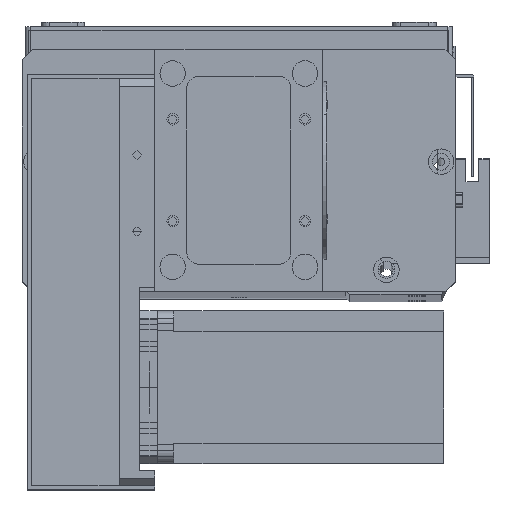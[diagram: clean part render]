
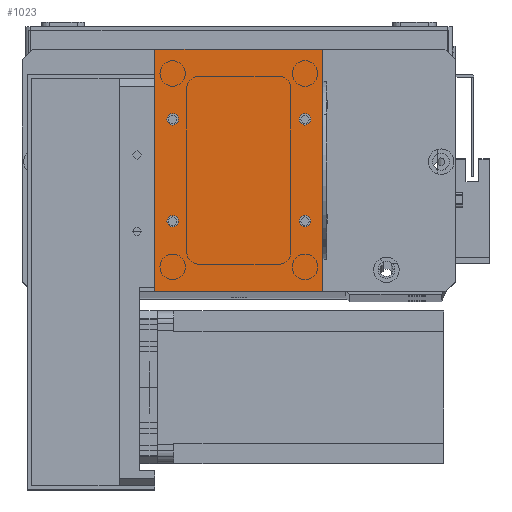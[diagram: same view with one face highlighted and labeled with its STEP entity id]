
A CAD part, top view. The second image highlights one B-rep face of the part: STEP entity #1023.
In plain terms, the highlighted planar face has unit normal (0, 0, 1).
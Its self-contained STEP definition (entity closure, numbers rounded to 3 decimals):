
#699 = ORIENTED_EDGE ( 'NONE', *, *, #7425, .T. ) ;
#843 = EDGE_CURVE ( 'NONE', #31565, #13674, #29270, .T. ) ;
#1023 = ADVANCED_FACE ( 'NONE', ( #31191, #17770, #24487, #11866, #4382 ), #15827, .F. ) ;
#1251 = ORIENTED_EDGE ( 'NONE', *, *, #5670, .T. ) ;
#2135 = VECTOR ( 'NONE', #23312, 1000. ) ;
#2462 = CIRCLE ( 'NONE', #5660, 2.25 ) ;
#2899 = ORIENTED_EDGE ( 'NONE', *, *, #5317, .F. ) ;
#3327 = CARTESIAN_POINT ( 'NONE',  ( 61.25, 27.5, 2. ) ) ;
#3408 = EDGE_CURVE ( 'NONE', #19579, #8391, #5851, .T. ) ;
#3503 = CIRCLE ( 'NONE', #13857, 2.25 ) ;
#3637 = CARTESIAN_POINT ( 'NONE',  ( 7., 67.5, 2. ) ) ;
#3653 = DIRECTION ( 'NONE',  ( 0., -1., 0. ) ) ;
#3662 = CARTESIAN_POINT ( 'NONE',  ( 66., 0., 2. ) ) ;
#3727 = LINE ( 'NONE', #5565, #2135 ) ;
#3875 = VECTOR ( 'NONE', #29901, 1000. ) ;
#4101 = CARTESIAN_POINT ( 'NONE',  ( 4.75, 27.5, 2. ) ) ;
#4382 = FACE_OUTER_BOUND ( 'NONE', #21999, .T. ) ;
#4405 = CARTESIAN_POINT ( 'NONE',  ( 7., 27.5, 2. ) ) ;
#4705 = VERTEX_POINT ( 'NONE', #26775 ) ;
#4759 = CARTESIAN_POINT ( 'NONE',  ( 0., 95., 2. ) ) ;
#5306 = CARTESIAN_POINT ( 'NONE',  ( 59., 67.5, 2. ) ) ;
#5317 = EDGE_CURVE ( 'NONE', #24619, #4705, #11648, .T. ) ;
#5565 = CARTESIAN_POINT ( 'NONE',  ( 66., 0., 2. ) ) ;
#5660 = AXIS2_PLACEMENT_3D ( 'NONE', #14148, #31775, #16696 ) ;
#5670 = EDGE_CURVE ( 'NONE', #8391, #19389, #3727, .T. ) ;
#5851 = LINE ( 'NONE', #27031, #31892 ) ;
#6179 = DIRECTION ( 'NONE',  ( 1., 0., 0. ) ) ;
#6914 = DIRECTION ( 'NONE',  ( 1., 0., 0. ) ) ;
#7059 = CARTESIAN_POINT ( 'NONE',  ( 59., 27.5, 2. ) ) ;
#7197 = AXIS2_PLACEMENT_3D ( 'NONE', #3637, #21314, #6179 ) ;
#7425 = EDGE_CURVE ( 'NONE', #8249, #19579, #12342, .T. ) ;
#7680 = AXIS2_PLACEMENT_3D ( 'NONE', #26666, #11542, #29212 ) ;
#7855 = DIRECTION ( 'NONE',  ( 1., 0., 0. ) ) ;
#8042 = CARTESIAN_POINT ( 'NONE',  ( 61.25, 67.5, 2. ) ) ;
#8097 = CARTESIAN_POINT ( 'NONE',  ( 59., 27.5, 2. ) ) ;
#8196 = CARTESIAN_POINT ( 'NONE',  ( 0., 95., 2. ) ) ;
#8249 = VERTEX_POINT ( 'NONE', #8196 ) ;
#8325 = VERTEX_POINT ( 'NONE', #3327 ) ;
#8391 = VERTEX_POINT ( 'NONE', #3662 ) ;
#9603 = DIRECTION ( 'NONE',  ( 1., 0., 0. ) ) ;
#10085 = CARTESIAN_POINT ( 'NONE',  ( 7., 67.5, 2. ) ) ;
#10639 = DIRECTION ( 'NONE',  ( 1., 0., 0. ) ) ;
#11012 = AXIS2_PLACEMENT_3D ( 'NONE', #4405, #22030, #6914 ) ;
#11088 = VERTEX_POINT ( 'NONE', #8042 ) ;
#11542 = DIRECTION ( 'NONE',  ( 0., 0., 1. ) ) ;
#11648 = CIRCLE ( 'NONE', #11012, 2.25 ) ;
#11800 = ORIENTED_EDGE ( 'NONE', *, *, #12285, .F. ) ;
#11866 = FACE_BOUND ( 'NONE', #30648, .T. ) ;
#12285 = EDGE_CURVE ( 'NONE', #16977, #8325, #27233, .T. ) ;
#12342 = LINE ( 'NONE', #18897, #31682 ) ;
#13143 = EDGE_CURVE ( 'NONE', #8325, #16977, #15317, .T. ) ;
#13674 = VERTEX_POINT ( 'NONE', #20428 ) ;
#13857 = AXIS2_PLACEMENT_3D ( 'NONE', #5306, #22961, #7855 ) ;
#13873 = EDGE_CURVE ( 'NONE', #13674, #31565, #29102, .T. ) ;
#14148 = CARTESIAN_POINT ( 'NONE',  ( 7., 27.5, 2. ) ) ;
#14437 = DIRECTION ( 'NONE',  ( 1., 0., 0. ) ) ;
#14698 = AXIS2_PLACEMENT_3D ( 'NONE', #15920, #14730, #30794 ) ;
#14730 = DIRECTION ( 'NONE',  ( 0., 0., -1. ) ) ;
#14956 = DIRECTION ( 'NONE',  ( 1., 0., 0. ) ) ;
#14977 = CARTESIAN_POINT ( 'NONE',  ( 4.75, 67.5, 2. ) ) ;
#15317 = CIRCLE ( 'NONE', #15876, 2.25 ) ;
#15640 = ORIENTED_EDGE ( 'NONE', *, *, #843, .F. ) ;
#15662 = VERTEX_POINT ( 'NONE', #22967 ) ;
#15827 = PLANE ( 'NONE',  #14698 ) ;
#15876 = AXIS2_PLACEMENT_3D ( 'NONE', #8097, #25757, #10639 ) ;
#15920 = CARTESIAN_POINT ( 'NONE',  ( 0., 0., 2. ) ) ;
#16177 = CARTESIAN_POINT ( 'NONE',  ( 66., 95., 2. ) ) ;
#16696 = DIRECTION ( 'NONE',  ( 1., 0., 0. ) ) ;
#16977 = VERTEX_POINT ( 'NONE', #23438 ) ;
#17300 = LINE ( 'NONE', #4759, #3875 ) ;
#17770 = FACE_BOUND ( 'NONE', #25538, .T. ) ;
#18897 = CARTESIAN_POINT ( 'NONE',  ( 0., 0., 2. ) ) ;
#19389 = VERTEX_POINT ( 'NONE', #16177 ) ;
#19579 = VERTEX_POINT ( 'NONE', #24616 ) ;
#19770 = ORIENTED_EDGE ( 'NONE', *, *, #13143, .F. ) ;
#20381 = AXIS2_PLACEMENT_3D ( 'NONE', #10085, #32551, #14956 ) ;
#20428 = CARTESIAN_POINT ( 'NONE',  ( 9.25, 67.5, 2. ) ) ;
#20690 = EDGE_LOOP ( 'NONE', ( #19770, #11800 ) ) ;
#21123 = ORIENTED_EDGE ( 'NONE', *, *, #24604, .F. ) ;
#21201 = EDGE_CURVE ( 'NONE', #19389, #8249, #17300, .T. ) ;
#21314 = DIRECTION ( 'NONE',  ( 0., 0., 1. ) ) ;
#21501 = ORIENTED_EDGE ( 'NONE', *, *, #21201, .T. ) ;
#21871 = EDGE_LOOP ( 'NONE', ( #23209, #15640 ) ) ;
#21999 = EDGE_LOOP ( 'NONE', ( #699, #25214, #1251, #21501 ) ) ;
#22030 = DIRECTION ( 'NONE',  ( 0., 0., 1. ) ) ;
#22961 = DIRECTION ( 'NONE',  ( 0., 0., 1. ) ) ;
#22967 = CARTESIAN_POINT ( 'NONE',  ( 56.75, 67.5, 2. ) ) ;
#23209 = ORIENTED_EDGE ( 'NONE', *, *, #13873, .F. ) ;
#23312 = DIRECTION ( 'NONE',  ( 0., 1., 0. ) ) ;
#23438 = CARTESIAN_POINT ( 'NONE',  ( 56.75, 27.5, 2. ) ) ;
#24487 = FACE_BOUND ( 'NONE', #20690, .T. ) ;
#24604 = EDGE_CURVE ( 'NONE', #4705, #24619, #2462, .T. ) ;
#24616 = CARTESIAN_POINT ( 'NONE',  ( 0., 0., 2. ) ) ;
#24619 = VERTEX_POINT ( 'NONE', #4101 ) ;
#24703 = DIRECTION ( 'NONE',  ( 0., 0., 1. ) ) ;
#24918 = ORIENTED_EDGE ( 'NONE', *, *, #27720, .F. ) ;
#25214 = ORIENTED_EDGE ( 'NONE', *, *, #3408, .T. ) ;
#25538 = EDGE_LOOP ( 'NONE', ( #24918, #31746 ) ) ;
#25757 = DIRECTION ( 'NONE',  ( 0., 0., 1. ) ) ;
#26666 = CARTESIAN_POINT ( 'NONE',  ( 59., 67.5, 2. ) ) ;
#26775 = CARTESIAN_POINT ( 'NONE',  ( 9.25, 27.5, 2. ) ) ;
#27031 = CARTESIAN_POINT ( 'NONE',  ( 0., 0., 2. ) ) ;
#27233 = CIRCLE ( 'NONE', #31891, 2.25 ) ;
#27720 = EDGE_CURVE ( 'NONE', #11088, #15662, #32336, .T. ) ;
#28106 = EDGE_CURVE ( 'NONE', #15662, #11088, #3503, .T. ) ;
#29102 = CIRCLE ( 'NONE', #7197, 2.25 ) ;
#29212 = DIRECTION ( 'NONE',  ( 1., 0., 0. ) ) ;
#29270 = CIRCLE ( 'NONE', #20381, 2.25 ) ;
#29901 = DIRECTION ( 'NONE',  ( -1., 0., 0. ) ) ;
#30648 = EDGE_LOOP ( 'NONE', ( #21123, #2899 ) ) ;
#30794 = DIRECTION ( 'NONE',  ( -1., 0., 0. ) ) ;
#31191 = FACE_BOUND ( 'NONE', #21871, .T. ) ;
#31565 = VERTEX_POINT ( 'NONE', #14977 ) ;
#31682 = VECTOR ( 'NONE', #3653, 1000. ) ;
#31746 = ORIENTED_EDGE ( 'NONE', *, *, #28106, .F. ) ;
#31775 = DIRECTION ( 'NONE',  ( 0., 0., 1. ) ) ;
#31891 = AXIS2_PLACEMENT_3D ( 'NONE', #7059, #24703, #9603 ) ;
#31892 = VECTOR ( 'NONE', #14437, 1000. ) ;
#32336 = CIRCLE ( 'NONE', #7680, 2.25 ) ;
#32551 = DIRECTION ( 'NONE',  ( 0., 0., 1. ) ) ;
